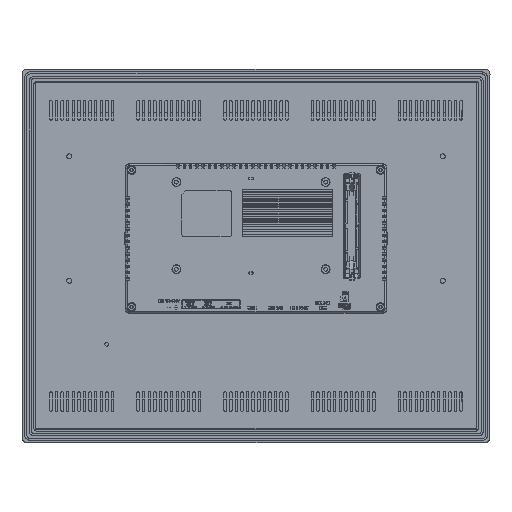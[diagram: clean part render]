
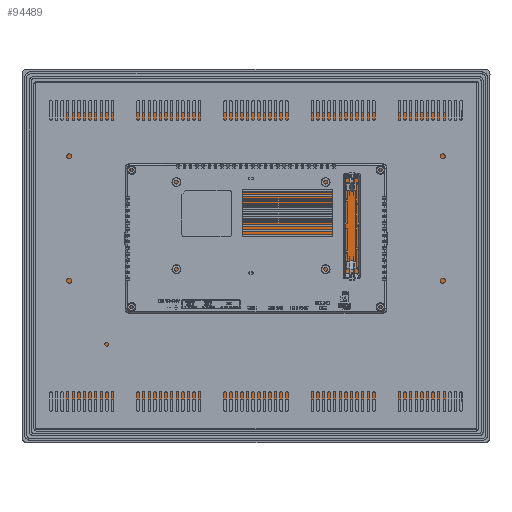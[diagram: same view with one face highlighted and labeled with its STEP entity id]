
A CAD part, top view. The second image highlights one B-rep face of the part: STEP entity #94489.
In plain terms, the highlighted planar face has unit normal (0, 0, 1).
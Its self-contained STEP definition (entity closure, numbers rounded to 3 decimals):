
#811 = VECTOR ( 'NONE', #68094, 1000. ) ;
#1686 = VECTOR ( 'NONE', #12381, 1000. ) ;
#1774 = VERTEX_POINT ( 'NONE', #49213 ) ;
#10720 = EDGE_CURVE ( 'NONE', #92784, #1774, #22756, .T. ) ;
#12381 = DIRECTION ( 'NONE',  ( 0., 1., 0. ) ) ;
#12697 = DIRECTION ( 'NONE',  ( -1., 0., 0. ) ) ;
#13735 = ORIENTED_EDGE ( 'NONE', *, *, #39499, .T. ) ;
#17159 = VERTEX_POINT ( 'NONE', #41427 ) ;
#18054 = VECTOR ( 'NONE', #12697, 1000. ) ;
#21414 = ORIENTED_EDGE ( 'NONE', *, *, #103519, .T. ) ;
#22756 = LINE ( 'NONE', #100279, #1686 ) ;
#23066 = PLANE ( 'NONE',  #47281 ) ;
#24170 = DIRECTION ( 'NONE',  ( 0., 0., -1. ) ) ;
#24184 = CARTESIAN_POINT ( 'NONE',  ( -155.462, 117.462, -2.6 ) ) ;
#31043 = DIRECTION ( 'NONE',  ( -1., 0., 0. ) ) ;
#39499 = EDGE_CURVE ( 'NONE', #1774, #110856, #56149, .T. ) ;
#41304 = FACE_OUTER_BOUND ( 'NONE', #82153, .T. ) ;
#41427 = CARTESIAN_POINT ( 'NONE',  ( -155.462, -112.538, -2.6 ) ) ;
#47281 = AXIS2_PLACEMENT_3D ( 'NONE', #50381, #24170, #31043 ) ;
#49213 = CARTESIAN_POINT ( 'NONE',  ( 150.538, 117.462, -2.6 ) ) ;
#50314 = CARTESIAN_POINT ( 'NONE',  ( -155.462, -112.538, -2.6 ) ) ;
#50381 = CARTESIAN_POINT ( 'NONE',  ( -2.462, 2.462, -2.6 ) ) ;
#54944 = CARTESIAN_POINT ( 'NONE',  ( 150.538, -112.538, -2.6 ) ) ;
#56149 = LINE ( 'NONE', #90914, #18054 ) ;
#56916 = CARTESIAN_POINT ( 'NONE',  ( -155.462, 117.462, -2.6 ) ) ;
#68094 = DIRECTION ( 'NONE',  ( 0., -1., 0. ) ) ;
#74028 = ORIENTED_EDGE ( 'NONE', *, *, #10720, .T. ) ;
#78072 = ORIENTED_EDGE ( 'NONE', *, *, #108592, .T. ) ;
#82153 = EDGE_LOOP ( 'NONE', ( #78072, #21414, #74028, #13735 ) ) ;
#90914 = CARTESIAN_POINT ( 'NONE',  ( -155.462, 117.462, -2.6 ) ) ;
#92784 = VERTEX_POINT ( 'NONE', #54944 ) ;
#94489 = ADVANCED_FACE ( 'NONE', ( #41304 ), #23066, .F. ) ;
#100279 = CARTESIAN_POINT ( 'NONE',  ( 150.538, 117.462, -2.6 ) ) ;
#102777 = LINE ( 'NONE', #50314, #112866 ) ;
#103519 = EDGE_CURVE ( 'NONE', #17159, #92784, #102777, .T. ) ;
#104881 = DIRECTION ( 'NONE',  ( 1., 0., 0. ) ) ;
#108592 = EDGE_CURVE ( 'NONE', #110856, #17159, #112510, .T. ) ;
#110856 = VERTEX_POINT ( 'NONE', #56916 ) ;
#112510 = LINE ( 'NONE', #24184, #811 ) ;
#112866 = VECTOR ( 'NONE', #104881, 1000. ) ;
